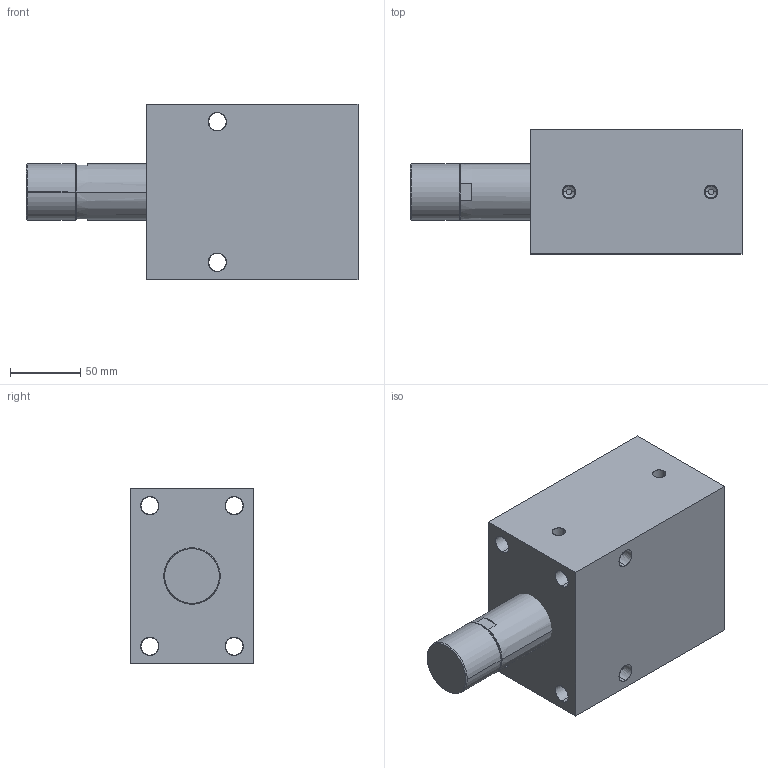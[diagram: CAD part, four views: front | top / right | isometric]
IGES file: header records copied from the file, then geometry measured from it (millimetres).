
Start section: SolidWorks IGES file using analytic representation for surfaces
Global section: file name: C:\Documents and Settings\rajib\Desktop\Rajib\BLOCK CYLINDER HYDRAULIC\0601-0606\IGS 0601-0608\0603.IGS; native system: SolidWorks 2007; preprocessor: SolidWorks 2007; author: rajib; date: 110121.105344; units: millimetre
Bounding box: 236 x 88 x 125 mm (x, y, z)
Surface area: 136131.3 mm2 (no closed solid volume)
Topology: 0 solids, 0 shells, 76 faces, 1856 edges, 1856 vertices
Faces by surface type: revolution 54, bspline 22
